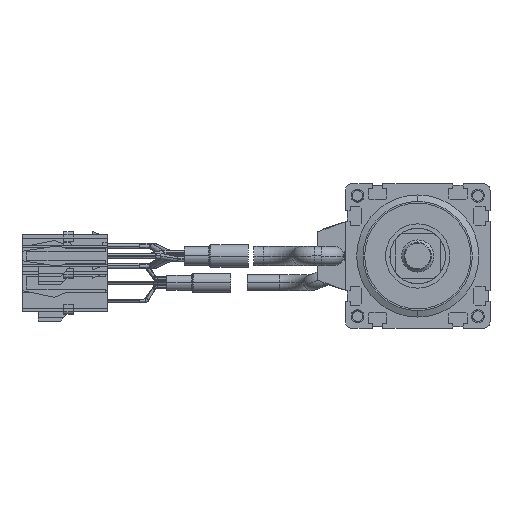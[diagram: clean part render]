
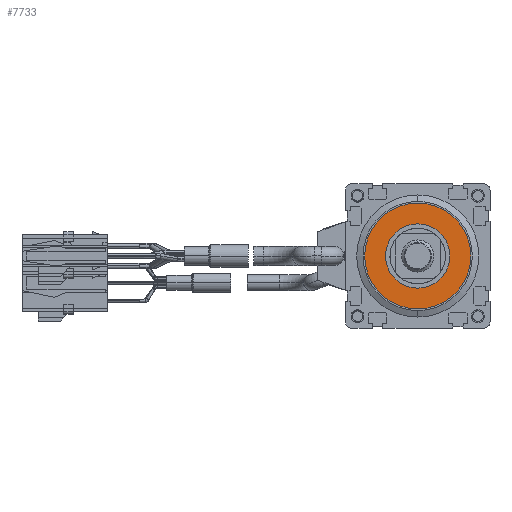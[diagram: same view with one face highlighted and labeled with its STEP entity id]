
A CAD part, left-side view. The second image highlights one B-rep face of the part: STEP entity #7733.
In plain terms, the highlighted planar face has unit normal (-1, 0, 0).
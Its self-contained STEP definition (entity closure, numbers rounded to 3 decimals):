
#2037=CARTESIAN_POINT('',(-226.5,0.,0.));
#2038=DIRECTION('',(1.,0.,0.));
#2039=DIRECTION('',(0.,1.,0.));
#2040=AXIS2_PLACEMENT_3D('',#2037,#2038,#2039);
#2042=CARTESIAN_POINT('',(-226.5,0.,0.));
#2043=DIRECTION('',(1.,0.,0.));
#2044=DIRECTION('',(0.,-1.,0.));
#2045=AXIS2_PLACEMENT_3D('',#2042,#2043,#2044);
#2047=CARTESIAN_POINT('',(-226.5,0.,0.));
#2048=DIRECTION('',(-1.,0.,0.));
#2049=DIRECTION('',(0.,0.,1.));
#2050=AXIS2_PLACEMENT_3D('',#2047,#2048,#2049);
#2052=CARTESIAN_POINT('',(-226.5,0.,0.));
#2053=DIRECTION('',(-1.,0.,0.));
#2054=DIRECTION('',(0.,0.,-1.));
#2055=AXIS2_PLACEMENT_3D('',#2052,#2053,#2054);
#3717=CARTESIAN_POINT('',(-226.5,16.5,0.));
#3718=VERTEX_POINT('',#3717);
#3719=CARTESIAN_POINT('',(-226.5,-16.5,0.));
#3720=VERTEX_POINT('',#3719);
#4696=CARTESIAN_POINT('',(-226.5,0.,10.));
#4697=CARTESIAN_POINT('',(-226.5,0.,-10.));
#4698=VERTEX_POINT('',#4696);
#4699=VERTEX_POINT('',#4697);
#7718=CARTESIAN_POINT('',(-226.5,0.,0.));
#7719=DIRECTION('',(1.,0.,0.));
#7720=DIRECTION('',(0.,1.,0.));
#7721=AXIS2_PLACEMENT_3D('',#7718,#7719,#7720);
#7722=PLANE('',#7721);
#7723=ORIENTED_EDGE('',*,*,#7698,.T.);
#7724=ORIENTED_EDGE('',*,*,#7712,.T.);
#7725=EDGE_LOOP('',(#7723,#7724));
#7726=FACE_OUTER_BOUND('',#7725,.F.);
#7728=ORIENTED_EDGE('',*,*,#7727,.T.);
#7730=ORIENTED_EDGE('',*,*,#7729,.T.);
#7731=EDGE_LOOP('',(#7728,#7730));
#7732=FACE_BOUND('',#7731,.F.);
#7733=ADVANCED_FACE('',(#7726,#7732),#7722,.F.);
#2041=CIRCLE('',#2040,16.5);
#2046=CIRCLE('',#2045,16.5);
#2051=CIRCLE('',#2050,10.);
#2056=CIRCLE('',#2055,10.);
#7698=EDGE_CURVE('',#3718,#3720,#2041,.T.);
#7712=EDGE_CURVE('',#3720,#3718,#2046,.T.);
#7727=EDGE_CURVE('',#4698,#4699,#2051,.T.);
#7729=EDGE_CURVE('',#4699,#4698,#2056,.T.);
